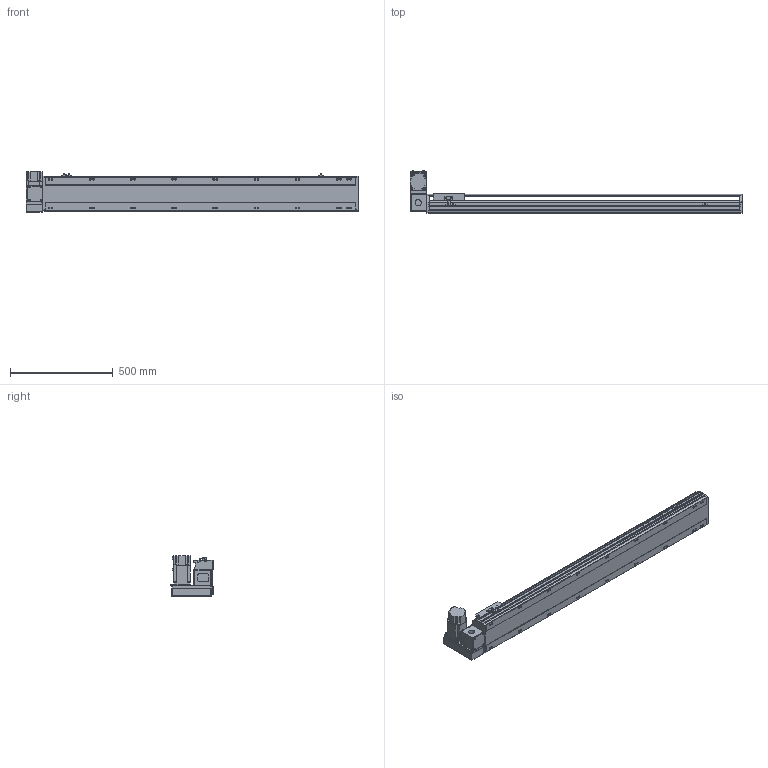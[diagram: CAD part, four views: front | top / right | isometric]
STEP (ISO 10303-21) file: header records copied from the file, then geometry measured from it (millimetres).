
FILE_DESCRIPTION( ( 'STEP AP214' ), '1' );
FILE_NAME( 'x:/temp/worker_4/temp/exporttempdir_2248_399_sKxyR/format_0/PBS170-P40-S1250-LU-T75-C1-N(0).stp', '2022-06-07T08:15:37', ( 'License CC BY-ND 4.0' ), ( 'CADENAS' ), ' ', 'PARTsolutions', ' ' );
FILE_SCHEMA( ( 'AUTOMOTIVE_DESIGN { 1 0 10303 214 1 1 1 1 }' ) );
Length unit declared in the file: millimetre
Products named in the file (7): PBS170-P40-S1250-LU-T75-C1-N(0); _PBS170-S1250()_body; _PBS170T-LU_motors; _T75-p1; _PBS170_sliser; _PBS170_plant; _PBS170_sensor
Assembly tree (8 placements, depth 2):
  PBS170-P40-S1250-LU-T75-C1-N(0)
    _PBS170-S1250()_body
    _PBS170T-LU_motors
    _T75-p1
    _PBS170_sliser
    _PBS170_plant
    _PBS170_sensor  x3
Bounding box: 1613 x 206 x 197.3 mm (x, y, z)
Volume: 12769007.5 mm3; surface area: 1656160.5 mm2
Topology: 8 solids, 8 shells, 1098 faces, 2915 edges, 1900 vertices
Faces by surface type: plane 693, cylinder 347, cone 48, sphere 8, torus 2
Full cylindrical faces by diameter (mm): 3.242 x4, 4 x2, 4.4 x4, 4.5 x6, 4.917 x4, 6 x9, 6.647 x26, 7 x2, 7.5 x4, 8 x8, 8.5 x18, 10 x4, 10.5 x18, 11 x2, 30 x2, 40 x1, 70 x1
Entity records: 40382 total; most frequent: CARTESIAN_POINT 6389, DIRECTION 5370, ORIENTED_EDGE 5088, EDGE_CURVE 2544, AXIS2_PLACEMENT_3D 1867, VERTEX_POINT 1754, LINE 1636, VECTOR 1636
